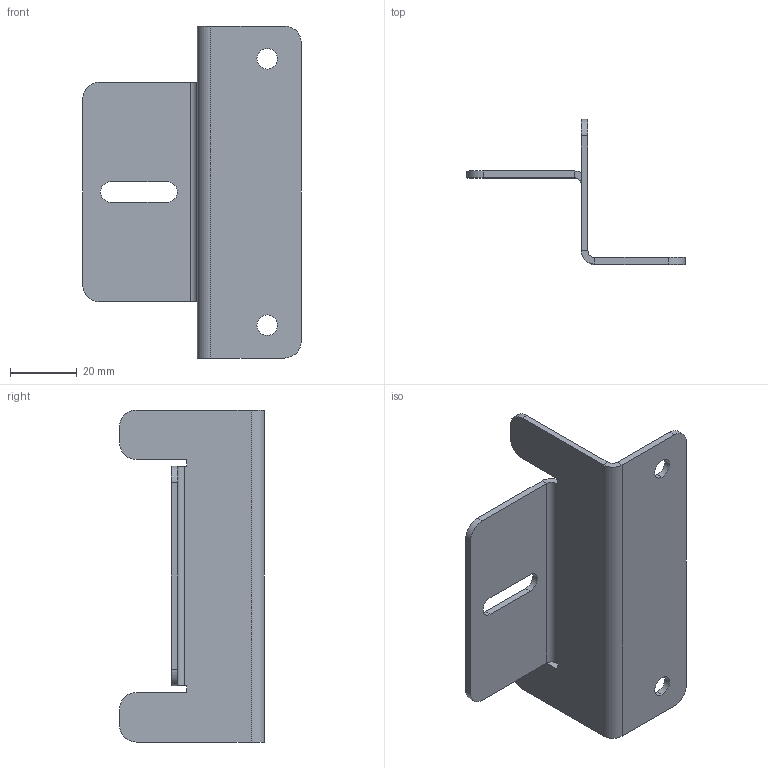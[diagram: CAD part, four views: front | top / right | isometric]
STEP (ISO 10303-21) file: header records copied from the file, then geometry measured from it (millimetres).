
FILE_DESCRIPTION (( 'STEP AP203' ), '1' );
FILE_NAME ('A-256.STEP', '2026-03-31T06:30:30', ( '' ), ( '' ), 'SwSTEP 2.0', 'SolidWorks 2021', '' );
FILE_SCHEMA (( 'CONFIG_CONTROL_DESIGN' ));
Length unit declared in the file: millimetre
Products named in the file (1): A-256
Bounding box: 65.59 x 43.5 x 99.7 mm (x, y, z)
Volume: 15929.1 mm3; surface area: 16995.1 mm2
Topology: 1 solids, 1 shells, 47 faces, 119 edges, 74 vertices
Faces by surface type: plane 28, cylinder 19
Entity records: 1492 total; most frequent: DIRECTION 253, CARTESIAN_POINT 241, ORIENTED_EDGE 238, EDGE_CURVE 119, AXIS2_PLACEMENT_3D 86, LINE 81, VECTOR 81, VERTEX_POINT 74
